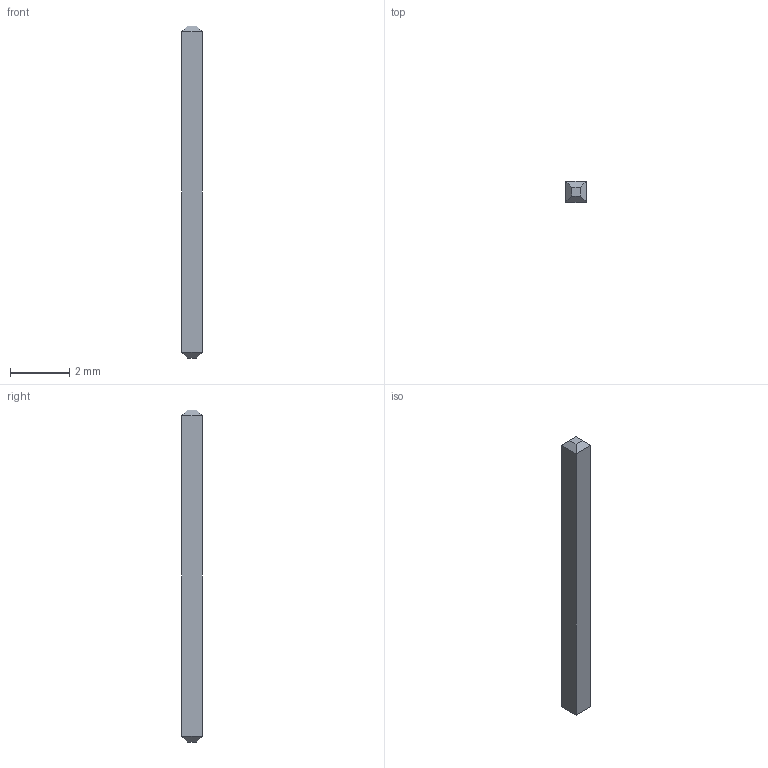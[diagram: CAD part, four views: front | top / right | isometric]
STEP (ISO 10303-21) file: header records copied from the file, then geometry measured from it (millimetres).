
FILE_DESCRIPTION(/* description */ ('STEP AP242 Edition 2','CAx-IF Rec.Pracs.---Representation and Presentation of Product Manufacturing Information (PMI)---4.0---2014-10-13','CAx-IF Rec.Pracs.---3D Tessellated Geometry---0.4---2014-09-14','2;1','CAx-IF Rec.Pracs.---User Defined Attributes---1.5---2016-08-15'),/* implementation_level */ '2;1');
FILE_NAME(/* name */ 'Drone Layout - Surface 167',/* time_stamp */ '2026-10-04T22:22:51Z',/* author */ (''),/* organization */ (''),/* preprocessor_version */ 'ST-DEVELOPER v20',/* originating_system */ 'ONSHAPE BY PTC INC, 1.221',/* authorisation */ ' ');
FILE_SCHEMA (('AP242_MANAGED_MODEL_BASED_3D_ENGINEERING_MIM_LF { 1 0 10303 442 3 1 4 }'));
Length unit declared in the file: metre
Products named in the file (1): Pin:17__Pin_20
Bounding box: 0.7 x 0.7 x 11.25 mm (x, y, z)
Volume: 5.4 mm3; surface area: 31.7 mm2
Topology: 1 solids, 1 shells, 14 faces, 28 edges, 16 vertices
Faces by surface type: plane 14
Entity records: 361 total; most frequent: CARTESIAN_POINT 59, DIRECTION 58, ORIENTED_EDGE 56, EDGE_CURVE 28, LINE 28, VECTOR 28, VERTEX_POINT 16, AXIS2_PLACEMENT_3D 15
